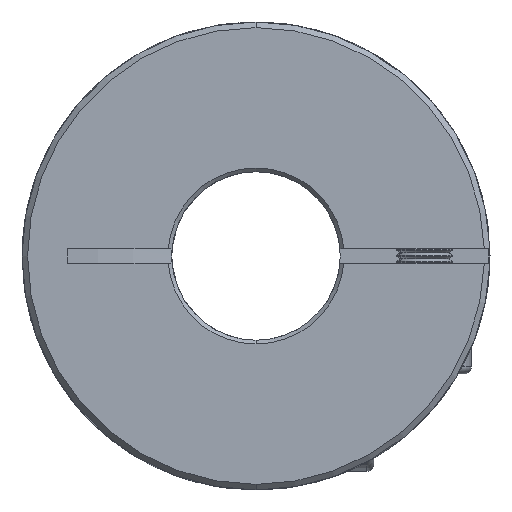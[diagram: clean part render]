
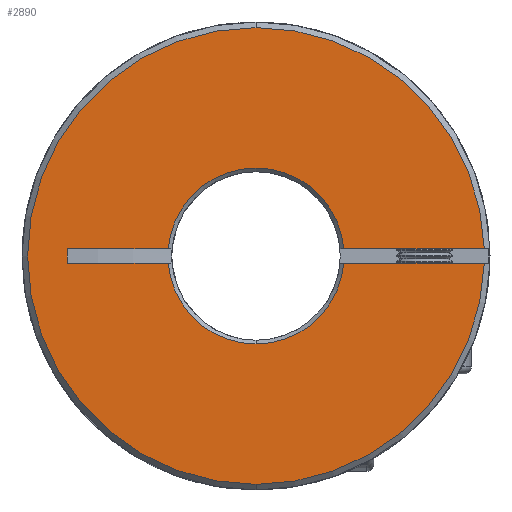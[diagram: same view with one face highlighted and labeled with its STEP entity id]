
A CAD part, front view. The second image highlights one B-rep face of the part: STEP entity #2890.
In plain terms, the highlighted planar face has unit normal (0, -1, 0).
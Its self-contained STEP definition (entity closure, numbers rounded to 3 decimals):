
#193 = ORIENTED_EDGE ( 'NONE', *, *, #8290, .T. ) ;
#195 = CARTESIAN_POINT ( 'NONE',  ( 0., 0., 0. ) ) ;
#481 = CIRCLE ( 'NONE', #7682, 24.4 ) ;
#614 = EDGE_CURVE ( 'NONE', #7114, #3543, #1675, .T. ) ;
#812 = DIRECTION ( 'NONE',  ( 0., -1., 0. ) ) ;
#976 = DIRECTION ( 'NONE',  ( 0., 1., 0. ) ) ;
#1077 = VECTOR ( 'NONE', #10768, 1000. ) ;
#1471 = CIRCLE ( 'NONE', #7362, 24.4 ) ;
#1675 = CIRCLE ( 'NONE', #8570, 9.4 ) ;
#1716 = ORIENTED_EDGE ( 'NONE', *, *, #2441, .T. ) ;
#1725 = EDGE_CURVE ( 'NONE', #11953, #5552, #14680, .T. ) ;
#1778 = ORIENTED_EDGE ( 'NONE', *, *, #1725, .T. ) ;
#1884 = CARTESIAN_POINT ( 'NONE',  ( -20.149, 0., 0.75 ) ) ;
#2196 = DIRECTION ( 'NONE',  ( 0., 1., 0. ) ) ;
#2297 = EDGE_CURVE ( 'NONE', #4101, #9356, #12000, .T. ) ;
#2441 = EDGE_CURVE ( 'NONE', #6425, #6636, #481, .T. ) ;
#2890 = ADVANCED_FACE ( 'NONE', ( #10172 ), #8367, .F. ) ;
#3148 = CIRCLE ( 'NONE', #14343, 24.4 ) ;
#3258 = CARTESIAN_POINT ( 'NONE',  ( -20.149, 0., -0.75 ) ) ;
#3261 = VECTOR ( 'NONE', #3757, 1000. ) ;
#3534 = EDGE_CURVE ( 'NONE', #4101, #16303, #5097, .T. ) ;
#3543 = VERTEX_POINT ( 'NONE', #8966 ) ;
#3757 = DIRECTION ( 'NONE',  ( 1., 0., 0. ) ) ;
#3763 = DIRECTION ( 'NONE',  ( 0., -1., 0. ) ) ;
#4076 = CARTESIAN_POINT ( 'NONE',  ( 0., 0., 24.4 ) ) ;
#4101 = VERTEX_POINT ( 'NONE', #12950 ) ;
#4444 = DIRECTION ( 'NONE',  ( 0., 1., 0. ) ) ;
#4538 = LINE ( 'NONE', #10384, #3261 ) ;
#4609 = CARTESIAN_POINT ( 'NONE',  ( -50., 0., -0.75 ) ) ;
#4960 = CARTESIAN_POINT ( 'NONE',  ( 9.37, 0., -0.75 ) ) ;
#5002 = DIRECTION ( 'NONE',  ( 0., 0., 1. ) ) ;
#5072 = ORIENTED_EDGE ( 'NONE', *, *, #14588, .F. ) ;
#5097 = LINE ( 'NONE', #3258, #6784 ) ;
#5552 = VERTEX_POINT ( 'NONE', #7814 ) ;
#5781 = DIRECTION ( 'NONE',  ( 0., 0., 1. ) ) ;
#6371 = CARTESIAN_POINT ( 'NONE',  ( 0., 0., 0. ) ) ;
#6425 = VERTEX_POINT ( 'NONE', #16384 ) ;
#6636 = VERTEX_POINT ( 'NONE', #7140 ) ;
#6725 = DIRECTION ( 'NONE',  ( 1., 0., 0. ) ) ;
#6784 = VECTOR ( 'NONE', #14007, 1000. ) ;
#6856 = LINE ( 'NONE', #9550, #15650 ) ;
#6889 = ORIENTED_EDGE ( 'NONE', *, *, #3534, .T. ) ;
#7083 = DIRECTION ( 'NONE',  ( 1., 0., 0. ) ) ;
#7114 = VERTEX_POINT ( 'NONE', #11323 ) ;
#7140 = CARTESIAN_POINT ( 'NONE',  ( 24.388, 0., -0.75 ) ) ;
#7201 = CARTESIAN_POINT ( 'NONE',  ( -50., 0., 32.858 ) ) ;
#7362 = AXIS2_PLACEMENT_3D ( 'NONE', #15623, #812, #11707 ) ;
#7462 = CARTESIAN_POINT ( 'NONE',  ( 24.388, 0., 0.75 ) ) ;
#7682 = AXIS2_PLACEMENT_3D ( 'NONE', #14282, #3763, #5002 ) ;
#7814 = CARTESIAN_POINT ( 'NONE',  ( 0., 0., -9.4 ) ) ;
#8290 = EDGE_CURVE ( 'NONE', #5552, #9356, #11460, .T. ) ;
#8367 = PLANE ( 'NONE',  #10295 ) ;
#8570 = AXIS2_PLACEMENT_3D ( 'NONE', #6371, #11754, #8838 ) ;
#8838 = DIRECTION ( 'NONE',  ( 0., 0., 1. ) ) ;
#8966 = CARTESIAN_POINT ( 'NONE',  ( 9.37, 0., 0.75 ) ) ;
#9327 = EDGE_CURVE ( 'NONE', #3543, #13868, #4538, .T. ) ;
#9341 = ORIENTED_EDGE ( 'NONE', *, *, #9327, .T. ) ;
#9356 = VERTEX_POINT ( 'NONE', #15940 ) ;
#9550 = CARTESIAN_POINT ( 'NONE',  ( -50., 0., -0.75 ) ) ;
#9904 = EDGE_CURVE ( 'NONE', #16303, #7114, #11375, .T. ) ;
#10172 = FACE_OUTER_BOUND ( 'NONE', #15591, .T. ) ;
#10223 = CARTESIAN_POINT ( 'NONE',  ( 0., 0., 0. ) ) ;
#10245 = EDGE_CURVE ( 'NONE', #10335, #6425, #1471, .T. ) ;
#10246 = AXIS2_PLACEMENT_3D ( 'NONE', #10223, #976, #16907 ) ;
#10295 = AXIS2_PLACEMENT_3D ( 'NONE', #7201, #4444, #5781 ) ;
#10335 = VERTEX_POINT ( 'NONE', #4076 ) ;
#10384 = CARTESIAN_POINT ( 'NONE',  ( -50., 0., 0.75 ) ) ;
#10709 = VECTOR ( 'NONE', #7083, 1000. ) ;
#10768 = DIRECTION ( 'NONE',  ( 1., 0., 0. ) ) ;
#11072 = DIRECTION ( 'NONE',  ( 0., -1., 0. ) ) ;
#11142 = AXIS2_PLACEMENT_3D ( 'NONE', #12952, #2196, #17067 ) ;
#11288 = EDGE_CURVE ( 'NONE', #13868, #10335, #3148, .T. ) ;
#11323 = CARTESIAN_POINT ( 'NONE',  ( -9.37, 0., 0.75 ) ) ;
#11375 = LINE ( 'NONE', #16278, #1077 ) ;
#11460 = CIRCLE ( 'NONE', #11142, 9.4 ) ;
#11707 = DIRECTION ( 'NONE',  ( 0., 0., 1. ) ) ;
#11754 = DIRECTION ( 'NONE',  ( 0., 1., 0. ) ) ;
#11953 = VERTEX_POINT ( 'NONE', #4960 ) ;
#12000 = LINE ( 'NONE', #4609, #10709 ) ;
#12503 = ORIENTED_EDGE ( 'NONE', *, *, #11288, .T. ) ;
#12950 = CARTESIAN_POINT ( 'NONE',  ( -20.149, 0., -0.75 ) ) ;
#12952 = CARTESIAN_POINT ( 'NONE',  ( 0., 0., 0. ) ) ;
#13868 = VERTEX_POINT ( 'NONE', #7462 ) ;
#14007 = DIRECTION ( 'NONE',  ( 0., 0., 1. ) ) ;
#14282 = CARTESIAN_POINT ( 'NONE',  ( 0., 0., 0. ) ) ;
#14343 = AXIS2_PLACEMENT_3D ( 'NONE', #195, #11072, #16298 ) ;
#14588 = EDGE_CURVE ( 'NONE', #11953, #6636, #6856, .T. ) ;
#14680 = CIRCLE ( 'NONE', #10246, 9.4 ) ;
#14922 = ORIENTED_EDGE ( 'NONE', *, *, #2297, .F. ) ;
#15158 = ORIENTED_EDGE ( 'NONE', *, *, #9904, .T. ) ;
#15591 = EDGE_LOOP ( 'NONE', ( #5072, #1778, #193, #14922, #6889, #15158, #16688, #9341, #12503, #17114, #1716 ) ) ;
#15623 = CARTESIAN_POINT ( 'NONE',  ( 0., 0., 0. ) ) ;
#15650 = VECTOR ( 'NONE', #6725, 1000. ) ;
#15940 = CARTESIAN_POINT ( 'NONE',  ( -9.37, 0., -0.75 ) ) ;
#16278 = CARTESIAN_POINT ( 'NONE',  ( -50., 0., 0.75 ) ) ;
#16298 = DIRECTION ( 'NONE',  ( 0., 0., 1. ) ) ;
#16303 = VERTEX_POINT ( 'NONE', #1884 ) ;
#16384 = CARTESIAN_POINT ( 'NONE',  ( 0., 0., -24.4 ) ) ;
#16688 = ORIENTED_EDGE ( 'NONE', *, *, #614, .T. ) ;
#16907 = DIRECTION ( 'NONE',  ( 0., 0., 1. ) ) ;
#17067 = DIRECTION ( 'NONE',  ( 0., 0., 1. ) ) ;
#17114 = ORIENTED_EDGE ( 'NONE', *, *, #10245, .T. ) ;
